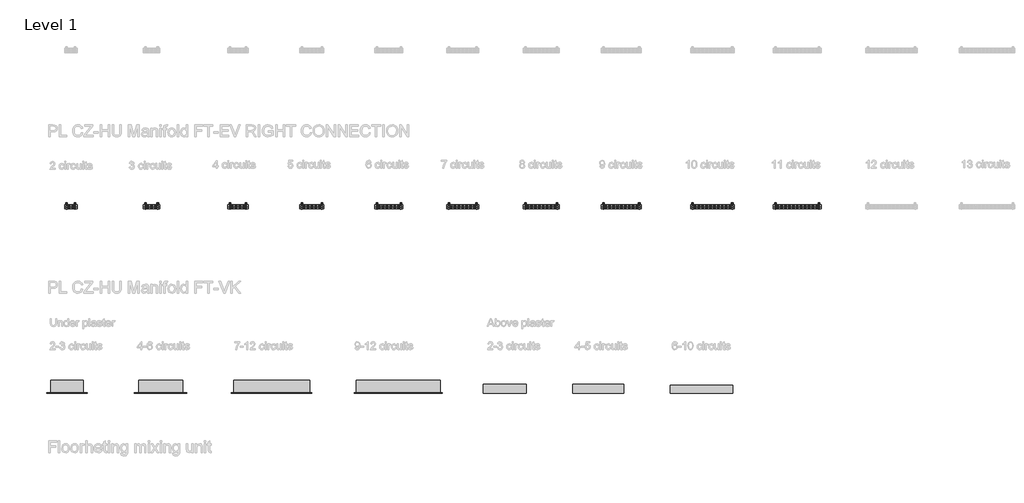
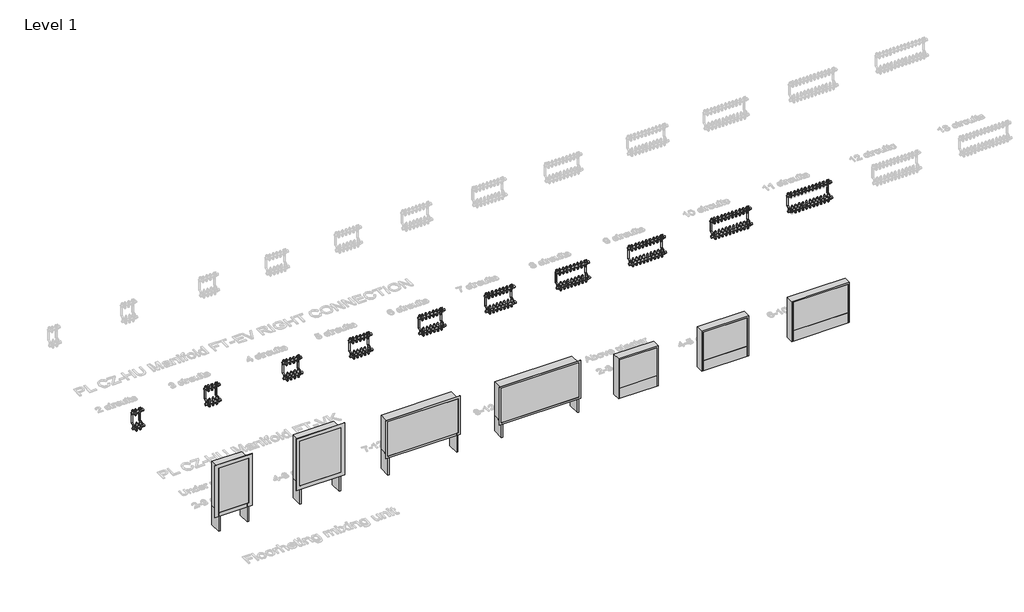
# One storey, part 1 of 13: 118 pipe fittings, 17 valves.
"""IFC4 building model written with IfcOpenShell, lengths in millimetres."""

from ifc_helpers import new_model, si_unit, origin, place, context, project, spatial, transform, mapped, element, save
from components import pipe_fitting_03c6499f, valve_ba84b301, valve_6797e1c4, valve_1d137561, valve_db89bd0c, valve_0ca0da9e, valve_ed07def3, valve_b03ecdcb, valve_6988da8c, valve_f03cca1b, valve_02f17e8c, valve_fda01fd1, valve_d8e88841, valve_cedec59f, valve_da24817b, valve_cd8652ac, valve_1cd17e95, valve_440f56c5, valve_c1a5959c, valve_5755080d, valve_f5936556, valve_d1a48dd4, valve_9c135178, valve_fde89ab8, valve_2528c4ae, valve_8079e6f7, valve_ce1a9fe1, valve_b9d05faa, valve_5ebee82e

model = new_model("IFC4")

# Units and contexts
model_context = context("Model", 3, world=origin())
ifc_project = project(units=[si_unit("LENGTHUNIT", "METRE", prefix="MILLI")], contexts=[model_context])

# Site, building, storey
site = spatial("IfcSite", under=ifc_project)
building = spatial("IfcBuilding", under=site)
storey = spatial("IfcBuildingStorey", under=building, Name="Level 1", Elevation=0.0)

# Pipe fittings
placement = place(None, origin())
pipe_fitting_shape = pipe_fitting_03c6499f(model_context)
element("IfcPipeFitting", 1, ObjectType="Euroconus screwing for multilayer pipes - Manifold FT : Euroconus screwing for multilayer pipes - Manifold FT", at=placement, inside=storey, context=model_context, shape_type="MappedRepresentation", body=[
    mapped(pipe_fitting_shape, transform((1338.7757306, -417.6772226, -37.0816103), x_axis=(0.0, 0.0, -1.0), y_axis=(0.0, 1.0000000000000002, 0.0), z_axis=(1.0000000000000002, 0.0, 0.0))),
])
element("IfcPipeFitting", 2, ObjectType="Euroconus screwing for multilayer pipes - Manifold FT : Euroconus screwing for multilayer pipes - Manifold FT", at=placement, inside=storey, context=model_context, shape_type="MappedRepresentation", body=[
    mapped(pipe_fitting_shape, transform((1288.7757306, -417.6772226, -37.0816103), x_axis=(0.0, 0.0, -1.0), y_axis=(0.0, 1.0000000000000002, 0.0), z_axis=(1.0000000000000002, 0.0, 0.0))),
])
element("IfcPipeFitting", 3, ObjectType="Euroconus screwing for multilayer pipes - Manifold FT : Euroconus screwing for multilayer pipes - Manifold FT", at=placement, inside=storey, context=model_context, shape_type="MappedRepresentation", body=[
    mapped(pipe_fitting_shape, transform((1338.7757306, -392.6772226, 172.88733), x_axis=(0.0, 0.0, -1.0), y_axis=(0.0, 1.0000000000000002, 0.0), z_axis=(1.0000000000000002, 0.0, 0.0))),
])
element("IfcPipeFitting", 4, ObjectType="Euroconus screwing for multilayer pipes - Manifold FT : Euroconus screwing for multilayer pipes - Manifold FT", at=placement, inside=storey, context=model_context, shape_type="MappedRepresentation", body=[
    mapped(pipe_fitting_shape, transform((1288.7757306, -392.6772226, 172.88733), x_axis=(0.0, 0.0, -1.0), y_axis=(0.0, 1.0000000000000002, 0.0), z_axis=(1.0000000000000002, 0.0, 0.0))),
])
element("IfcPipeFitting", 5, ObjectType="Euroconus screwing for multilayer pipes - Manifold FT : Euroconus screwing for multilayer pipes - Manifold FT", at=placement, inside=storey, context=model_context, shape_type="MappedRepresentation", body=[
    mapped(pipe_fitting_shape, transform((2347.2354504, -417.6772226, -37.0816103), x_axis=(0.0, 0.0, -1.0), y_axis=(0.0, 1.0000000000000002, 0.0), z_axis=(1.0000000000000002, 0.0, 0.0))),
])
element("IfcPipeFitting", 6, ObjectType="Euroconus screwing for multilayer pipes - Manifold FT : Euroconus screwing for multilayer pipes - Manifold FT", at=placement, inside=storey, context=model_context, shape_type="MappedRepresentation", body=[
    mapped(pipe_fitting_shape, transform((2397.2354504, -417.6772226, -37.0816103), x_axis=(0.0, 0.0, -1.0), y_axis=(0.0, 1.0000000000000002, 0.0), z_axis=(1.0000000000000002, 0.0, 0.0))),
])
element("IfcPipeFitting", 7, ObjectType="Euroconus screwing for multilayer pipes - Manifold FT : Euroconus screwing for multilayer pipes - Manifold FT", at=placement, inside=storey, context=model_context, shape_type="MappedRepresentation", body=[
    mapped(pipe_fitting_shape, transform((2297.2354504, -417.6772226, -37.0816103), x_axis=(0.0, 0.0, -1.0), y_axis=(0.0, 1.0000000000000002, 0.0), z_axis=(1.0000000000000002, 0.0, 0.0))),
])
element("IfcPipeFitting", 8, ObjectType="Euroconus screwing for multilayer pipes - Manifold FT : Euroconus screwing for multilayer pipes - Manifold FT", at=placement, inside=storey, context=model_context, shape_type="MappedRepresentation", body=[
    mapped(pipe_fitting_shape, transform((2347.2354504, -392.6772226, 172.88733), x_axis=(0.0, 0.0, -1.0), y_axis=(0.0, 1.0000000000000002, 0.0), z_axis=(1.0000000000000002, 0.0, 0.0))),
])
element("IfcPipeFitting", 9, ObjectType="Euroconus screwing for multilayer pipes - Manifold FT : Euroconus screwing for multilayer pipes - Manifold FT", at=placement, inside=storey, context=model_context, shape_type="MappedRepresentation", body=[
    mapped(pipe_fitting_shape, transform((2397.2354504, -392.6772226, 172.88733), x_axis=(0.0, 0.0, -1.0), y_axis=(0.0, 1.0000000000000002, 0.0), z_axis=(1.0000000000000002, 0.0, 0.0))),
])
element("IfcPipeFitting", 10, ObjectType="Euroconus screwing for multilayer pipes - Manifold FT : Euroconus screwing for multilayer pipes - Manifold FT", at=placement, inside=storey, context=model_context, shape_type="MappedRepresentation", body=[
    mapped(pipe_fitting_shape, transform((2297.2354504, -392.6772226, 172.88733), x_axis=(0.0, 0.0, -1.0), y_axis=(0.0, 1.0000000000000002, 0.0), z_axis=(1.0000000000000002, 0.0, 0.0))),
])
element("IfcPipeFitting", 11, ObjectType="Euroconus screwing for multilayer pipes - Manifold FT : Euroconus screwing for multilayer pipes - Manifold FT", at=placement, inside=storey, context=model_context, shape_type="MappedRepresentation", body=[
    mapped(pipe_fitting_shape, transform((3477.2354504, -417.6772226, -37.0816103), x_axis=(0.0, 0.0, -1.0), y_axis=(0.0, 1.0000000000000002, 0.0), z_axis=(1.0000000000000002, 0.0, 0.0))),
])
element("IfcPipeFitting", 12, ObjectType="Euroconus screwing for multilayer pipes - Manifold FT : Euroconus screwing for multilayer pipes - Manifold FT", at=placement, inside=storey, context=model_context, shape_type="MappedRepresentation", body=[
    mapped(pipe_fitting_shape, transform((3427.2354504, -417.6772226, -37.0816103), x_axis=(0.0, 0.0, -1.0), y_axis=(0.0, 1.0000000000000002, 0.0), z_axis=(1.0000000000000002, 0.0, 0.0))),
])
element("IfcPipeFitting", 13, ObjectType="Euroconus screwing for multilayer pipes - Manifold FT : Euroconus screwing for multilayer pipes - Manifold FT", at=placement, inside=storey, context=model_context, shape_type="MappedRepresentation", body=[
    mapped(pipe_fitting_shape, transform((3527.2354504, -417.6772226, -37.0816103), x_axis=(0.0, 0.0, -1.0), y_axis=(0.0, 1.0000000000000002, 0.0), z_axis=(1.0000000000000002, 0.0, 0.0))),
])
element("IfcPipeFitting", 14, ObjectType="Euroconus screwing for multilayer pipes - Manifold FT : Euroconus screwing for multilayer pipes - Manifold FT", at=placement, inside=storey, context=model_context, shape_type="MappedRepresentation", body=[
    mapped(pipe_fitting_shape, transform((3377.2354504, -417.6772226, -37.0816103), x_axis=(0.0, 0.0, -1.0), y_axis=(0.0, 1.0000000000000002, 0.0), z_axis=(1.0000000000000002, 0.0, 0.0))),
])
element("IfcPipeFitting", 15, ObjectType="Euroconus screwing for multilayer pipes - Manifold FT : Euroconus screwing for multilayer pipes - Manifold FT", at=placement, inside=storey, context=model_context, shape_type="MappedRepresentation", body=[
    mapped(pipe_fitting_shape, transform((3477.2354504, -392.6772226, 172.88733), x_axis=(0.0, 0.0, -1.0), y_axis=(0.0, 1.0000000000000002, 0.0), z_axis=(1.0000000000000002, 0.0, 0.0))),
])
element("IfcPipeFitting", 16, ObjectType="Euroconus screwing for multilayer pipes - Manifold FT : Euroconus screwing for multilayer pipes - Manifold FT", at=placement, inside=storey, context=model_context, shape_type="MappedRepresentation", body=[
    mapped(pipe_fitting_shape, transform((3427.2354504, -392.6772226, 172.88733), x_axis=(0.0, 0.0, -1.0), y_axis=(0.0, 1.0000000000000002, 0.0), z_axis=(1.0000000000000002, 0.0, 0.0))),
])
element("IfcPipeFitting", 17, ObjectType="Euroconus screwing for multilayer pipes - Manifold FT : Euroconus screwing for multilayer pipes - Manifold FT", at=placement, inside=storey, context=model_context, shape_type="MappedRepresentation", body=[
    mapped(pipe_fitting_shape, transform((3527.2354504, -392.6772226, 172.88733), x_axis=(0.0, 0.0, -1.0), y_axis=(0.0, 1.0000000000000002, 0.0), z_axis=(1.0000000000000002, 0.0, 0.0))),
])
element("IfcPipeFitting", 18, ObjectType="Euroconus screwing for multilayer pipes - Manifold FT : Euroconus screwing for multilayer pipes - Manifold FT", at=placement, inside=storey, context=model_context, shape_type="MappedRepresentation", body=[
    mapped(pipe_fitting_shape, transform((3377.2354504, -392.6772226, 172.88733), x_axis=(0.0, 0.0, -1.0), y_axis=(0.0, 1.0000000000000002, 0.0), z_axis=(1.0000000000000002, 0.0, 0.0))),
])
element("IfcPipeFitting", 19, ObjectType="Euroconus screwing for multilayer pipes - Manifold FT : Euroconus screwing for multilayer pipes - Manifold FT", at=placement, inside=storey, context=model_context, shape_type="MappedRepresentation", body=[
    mapped(pipe_fitting_shape, transform((4447.2354504, -417.6772226, -37.0816103), x_axis=(0.0, 0.0, -1.0), y_axis=(0.0, 1.0000000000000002, 0.0), z_axis=(1.0000000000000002, 0.0, 0.0))),
])
element("IfcPipeFitting", 20, ObjectType="Euroconus screwing for multilayer pipes - Manifold FT : Euroconus screwing for multilayer pipes - Manifold FT", at=placement, inside=storey, context=model_context, shape_type="MappedRepresentation", body=[
    mapped(pipe_fitting_shape, transform((4397.2354504, -417.6772226, -37.0816103), x_axis=(0.0, 0.0, -1.0), y_axis=(0.0, 1.0000000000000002, 0.0), z_axis=(1.0000000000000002, 0.0, 0.0))),
])
element("IfcPipeFitting", 21, ObjectType="Euroconus screwing for multilayer pipes - Manifold FT : Euroconus screwing for multilayer pipes - Manifold FT", at=placement, inside=storey, context=model_context, shape_type="MappedRepresentation", body=[
    mapped(pipe_fitting_shape, transform((4347.2354504, -417.6772226, -37.0816103), x_axis=(0.0, 0.0, -1.0), y_axis=(0.0, 1.0000000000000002, 0.0), z_axis=(1.0000000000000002, 0.0, 0.0))),
])
element("IfcPipeFitting", 22, ObjectType="Euroconus screwing for multilayer pipes - Manifold FT : Euroconus screwing for multilayer pipes - Manifold FT", at=placement, inside=storey, context=model_context, shape_type="MappedRepresentation", body=[
    mapped(pipe_fitting_shape, transform((4497.2354504, -417.6772226, -37.0816103), x_axis=(0.0, 0.0, -1.0), y_axis=(0.0, 1.0000000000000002, 0.0), z_axis=(1.0000000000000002, 0.0, 0.0))),
])
element("IfcPipeFitting", 23, ObjectType="Euroconus screwing for multilayer pipes - Manifold FT : Euroconus screwing for multilayer pipes - Manifold FT", at=placement, inside=storey, context=model_context, shape_type="MappedRepresentation", body=[
    mapped(pipe_fitting_shape, transform((4297.2354504, -417.6772226, -37.0816103), x_axis=(0.0, 0.0, -1.0), y_axis=(0.0, 1.0000000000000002, 0.0), z_axis=(1.0000000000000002, 0.0, 0.0))),
])
element("IfcPipeFitting", 24, ObjectType="Euroconus screwing for multilayer pipes - Manifold FT : Euroconus screwing for multilayer pipes - Manifold FT", at=placement, inside=storey, context=model_context, shape_type="MappedRepresentation", body=[
    mapped(pipe_fitting_shape, transform((4447.2354504, -392.6772226, 172.88733), x_axis=(0.0, 0.0, -1.0), y_axis=(0.0, 1.0000000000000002, 0.0), z_axis=(1.0000000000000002, 0.0, 0.0))),
])
element("IfcPipeFitting", 25, ObjectType="Euroconus screwing for multilayer pipes - Manifold FT : Euroconus screwing for multilayer pipes - Manifold FT", at=placement, inside=storey, context=model_context, shape_type="MappedRepresentation", body=[
    mapped(pipe_fitting_shape, transform((4397.2354504, -392.6772226, 172.88733), x_axis=(0.0, 0.0, -1.0), y_axis=(0.0, 1.0000000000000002, 0.0), z_axis=(1.0000000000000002, 0.0, 0.0))),
])
element("IfcPipeFitting", 26, ObjectType="Euroconus screwing for multilayer pipes - Manifold FT : Euroconus screwing for multilayer pipes - Manifold FT", at=placement, inside=storey, context=model_context, shape_type="MappedRepresentation", body=[
    mapped(pipe_fitting_shape, transform((4347.2354504, -392.6772226, 172.88733), x_axis=(0.0, 0.0, -1.0), y_axis=(0.0, 1.0000000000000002, 0.0), z_axis=(1.0000000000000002, 0.0, 0.0))),
])
element("IfcPipeFitting", 27, ObjectType="Euroconus screwing for multilayer pipes - Manifold FT : Euroconus screwing for multilayer pipes - Manifold FT", at=placement, inside=storey, context=model_context, shape_type="MappedRepresentation", body=[
    mapped(pipe_fitting_shape, transform((4497.2354504, -392.6772226, 172.88733), x_axis=(0.0, 0.0, -1.0), y_axis=(0.0, 1.0000000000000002, 0.0), z_axis=(1.0000000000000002, 0.0, 0.0))),
])
element("IfcPipeFitting", 28, ObjectType="Euroconus screwing for multilayer pipes - Manifold FT : Euroconus screwing for multilayer pipes - Manifold FT", at=placement, inside=storey, context=model_context, shape_type="MappedRepresentation", body=[
    mapped(pipe_fitting_shape, transform((4297.2354504, -392.6772226, 172.88733), x_axis=(0.0, 0.0, -1.0), y_axis=(0.0, 1.0000000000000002, 0.0), z_axis=(1.0000000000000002, 0.0, 0.0))),
])
element("IfcPipeFitting", 29, ObjectType="Euroconus screwing for multilayer pipes - Manifold FT : Euroconus screwing for multilayer pipes - Manifold FT", at=placement, inside=storey, context=model_context, shape_type="MappedRepresentation", body=[
    mapped(pipe_fitting_shape, transform((5457.2354504, -417.6772226, -37.0816103), x_axis=(0.0, 0.0, -1.0), y_axis=(0.0, 1.0000000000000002, 0.0), z_axis=(1.0000000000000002, 0.0, 0.0))),
])
element("IfcPipeFitting", 30, ObjectType="Euroconus screwing for multilayer pipes - Manifold FT : Euroconus screwing for multilayer pipes - Manifold FT", at=placement, inside=storey, context=model_context, shape_type="MappedRepresentation", body=[
    mapped(pipe_fitting_shape, transform((5407.2354504, -417.6772226, -37.0816103), x_axis=(0.0, 0.0, -1.0), y_axis=(0.0, 1.0000000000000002, 0.0), z_axis=(1.0000000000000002, 0.0, 0.0))),
])
element("IfcPipeFitting", 31, ObjectType="Euroconus screwing for multilayer pipes - Manifold FT : Euroconus screwing for multilayer pipes - Manifold FT", at=placement, inside=storey, context=model_context, shape_type="MappedRepresentation", body=[
    mapped(pipe_fitting_shape, transform((5357.2354504, -417.6772226, -37.0816103), x_axis=(0.0, 0.0, -1.0), y_axis=(0.0, 1.0000000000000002, 0.0), z_axis=(1.0000000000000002, 0.0, 0.0))),
])
element("IfcPipeFitting", 32, ObjectType="Euroconus screwing for multilayer pipes - Manifold FT : Euroconus screwing for multilayer pipes - Manifold FT", at=placement, inside=storey, context=model_context, shape_type="MappedRepresentation", body=[
    mapped(pipe_fitting_shape, transform((5307.2354504, -417.6772226, -37.0816103), x_axis=(0.0, 0.0, -1.0), y_axis=(0.0, 1.0000000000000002, 0.0), z_axis=(1.0000000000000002, 0.0, 0.0))),
])
element("IfcPipeFitting", 33, ObjectType="Euroconus screwing for multilayer pipes - Manifold FT : Euroconus screwing for multilayer pipes - Manifold FT", at=placement, inside=storey, context=model_context, shape_type="MappedRepresentation", body=[
    mapped(pipe_fitting_shape, transform((5507.2354504, -417.6772226, -37.0816103), x_axis=(0.0, 0.0, -1.0), y_axis=(0.0, 1.0000000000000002, 0.0), z_axis=(1.0000000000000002, 0.0, 0.0))),
])
element("IfcPipeFitting", 34, ObjectType="Euroconus screwing for multilayer pipes - Manifold FT : Euroconus screwing for multilayer pipes - Manifold FT", at=placement, inside=storey, context=model_context, shape_type="MappedRepresentation", body=[
    mapped(pipe_fitting_shape, transform((5257.2354504, -417.6772226, -37.0816103), x_axis=(0.0, 0.0, -1.0), y_axis=(0.0, 1.0000000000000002, 0.0), z_axis=(1.0000000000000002, 0.0, 0.0))),
])
element("IfcPipeFitting", 35, ObjectType="Euroconus screwing for multilayer pipes - Manifold FT : Euroconus screwing for multilayer pipes - Manifold FT", at=placement, inside=storey, context=model_context, shape_type="MappedRepresentation", body=[
    mapped(pipe_fitting_shape, transform((5457.2354504, -392.6772226, 172.88733), x_axis=(0.0, 0.0, -1.0), y_axis=(0.0, 1.0000000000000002, 0.0), z_axis=(1.0000000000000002, 0.0, 0.0))),
])
element("IfcPipeFitting", 36, ObjectType="Euroconus screwing for multilayer pipes - Manifold FT : Euroconus screwing for multilayer pipes - Manifold FT", at=placement, inside=storey, context=model_context, shape_type="MappedRepresentation", body=[
    mapped(pipe_fitting_shape, transform((5407.2354504, -392.6772226, 172.88733), x_axis=(0.0, 0.0, -1.0), y_axis=(0.0, 1.0000000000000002, 0.0), z_axis=(1.0000000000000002, 0.0, 0.0))),
])
element("IfcPipeFitting", 37, ObjectType="Euroconus screwing for multilayer pipes - Manifold FT : Euroconus screwing for multilayer pipes - Manifold FT", at=placement, inside=storey, context=model_context, shape_type="MappedRepresentation", body=[
    mapped(pipe_fitting_shape, transform((5357.2354504, -392.6772226, 172.88733), x_axis=(0.0, 0.0, -1.0), y_axis=(0.0, 1.0000000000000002, 0.0), z_axis=(1.0000000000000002, 0.0, 0.0))),
])
element("IfcPipeFitting", 38, ObjectType="Euroconus screwing for multilayer pipes - Manifold FT : Euroconus screwing for multilayer pipes - Manifold FT", at=placement, inside=storey, context=model_context, shape_type="MappedRepresentation", body=[
    mapped(pipe_fitting_shape, transform((5307.2354504, -392.6772226, 172.88733), x_axis=(0.0, 0.0, -1.0), y_axis=(0.0, 1.0000000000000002, 0.0), z_axis=(1.0000000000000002, 0.0, 0.0))),
])
element("IfcPipeFitting", 39, ObjectType="Euroconus screwing for multilayer pipes - Manifold FT : Euroconus screwing for multilayer pipes - Manifold FT", at=placement, inside=storey, context=model_context, shape_type="MappedRepresentation", body=[
    mapped(pipe_fitting_shape, transform((5507.2354504, -392.6772226, 172.88733), x_axis=(0.0, 0.0, -1.0), y_axis=(0.0, 1.0000000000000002, 0.0), z_axis=(1.0000000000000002, 0.0, 0.0))),
])
element("IfcPipeFitting", 40, ObjectType="Euroconus screwing for multilayer pipes - Manifold FT : Euroconus screwing for multilayer pipes - Manifold FT", at=placement, inside=storey, context=model_context, shape_type="MappedRepresentation", body=[
    mapped(pipe_fitting_shape, transform((5257.2354504, -392.6772226, 172.88733), x_axis=(0.0, 0.0, -1.0), y_axis=(0.0, 1.0000000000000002, 0.0), z_axis=(1.0000000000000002, 0.0, 0.0))),
])
element("IfcPipeFitting", 41, ObjectType="Euroconus screwing for multilayer pipes - Manifold FT : Euroconus screwing for multilayer pipes - Manifold FT", at=placement, inside=storey, context=model_context, shape_type="MappedRepresentation", body=[
    mapped(pipe_fitting_shape, transform((6427.2354504, -417.6772226, -37.0816103), x_axis=(0.0, 0.0, -1.0), y_axis=(0.0, 1.0000000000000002, 0.0), z_axis=(1.0000000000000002, 0.0, 0.0))),
])
element("IfcPipeFitting", 42, ObjectType="Euroconus screwing for multilayer pipes - Manifold FT : Euroconus screwing for multilayer pipes - Manifold FT", at=placement, inside=storey, context=model_context, shape_type="MappedRepresentation", body=[
    mapped(pipe_fitting_shape, transform((6377.2354504, -417.6772226, -37.0816103), x_axis=(0.0, 0.0, -1.0), y_axis=(0.0, 1.0000000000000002, 0.0), z_axis=(1.0000000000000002, 0.0, 0.0))),
])
element("IfcPipeFitting", 43, ObjectType="Euroconus screwing for multilayer pipes - Manifold FT : Euroconus screwing for multilayer pipes - Manifold FT", at=placement, inside=storey, context=model_context, shape_type="MappedRepresentation", body=[
    mapped(pipe_fitting_shape, transform((6327.2354504, -417.6772226, -37.0816103), x_axis=(0.0, 0.0, -1.0), y_axis=(0.0, 1.0000000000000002, 0.0), z_axis=(1.0000000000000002, 0.0, 0.0))),
])
element("IfcPipeFitting", 44, ObjectType="Euroconus screwing for multilayer pipes - Manifold FT : Euroconus screwing for multilayer pipes - Manifold FT", at=placement, inside=storey, context=model_context, shape_type="MappedRepresentation", body=[
    mapped(pipe_fitting_shape, transform((6277.2354504, -417.6772226, -37.0816103), x_axis=(0.0, 0.0, -1.0), y_axis=(0.0, 1.0000000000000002, 0.0), z_axis=(1.0000000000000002, 0.0, 0.0))),
])
element("IfcPipeFitting", 45, ObjectType="Euroconus screwing for multilayer pipes - Manifold FT : Euroconus screwing for multilayer pipes - Manifold FT", at=placement, inside=storey, context=model_context, shape_type="MappedRepresentation", body=[
    mapped(pipe_fitting_shape, transform((6227.2354504, -417.6772226, -37.0816103), x_axis=(0.0, 0.0, -1.0), y_axis=(0.0, 1.0000000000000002, 0.0), z_axis=(1.0000000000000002, 0.0, 0.0))),
])
element("IfcPipeFitting", 46, ObjectType="Euroconus screwing for multilayer pipes - Manifold FT : Euroconus screwing for multilayer pipes - Manifold FT", at=placement, inside=storey, context=model_context, shape_type="MappedRepresentation", body=[
    mapped(pipe_fitting_shape, transform((6477.2354504, -417.6772226, -37.0816103), x_axis=(0.0, 0.0, -1.0), y_axis=(0.0, 1.0000000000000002, 0.0), z_axis=(1.0000000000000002, 0.0, 0.0))),
])
element("IfcPipeFitting", 47, ObjectType="Euroconus screwing for multilayer pipes - Manifold FT : Euroconus screwing for multilayer pipes - Manifold FT", at=placement, inside=storey, context=model_context, shape_type="MappedRepresentation", body=[
    mapped(pipe_fitting_shape, transform((6177.2354504, -417.6772226, -37.0816103), x_axis=(0.0, 0.0, -1.0), y_axis=(0.0, 1.0000000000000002, 0.0), z_axis=(1.0000000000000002, 0.0, 0.0))),
])
element("IfcPipeFitting", 48, ObjectType="Euroconus screwing for multilayer pipes - Manifold FT : Euroconus screwing for multilayer pipes - Manifold FT", at=placement, inside=storey, context=model_context, shape_type="MappedRepresentation", body=[
    mapped(pipe_fitting_shape, transform((6427.2354504, -392.6772226, 172.88733), x_axis=(0.0, 0.0, -1.0), y_axis=(0.0, 1.0000000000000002, 0.0), z_axis=(1.0000000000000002, 0.0, 0.0))),
])
element("IfcPipeFitting", 49, ObjectType="Euroconus screwing for multilayer pipes - Manifold FT : Euroconus screwing for multilayer pipes - Manifold FT", at=placement, inside=storey, context=model_context, shape_type="MappedRepresentation", body=[
    mapped(pipe_fitting_shape, transform((6377.2354504, -392.6772226, 172.88733), x_axis=(0.0, 0.0, -1.0), y_axis=(0.0, 1.0000000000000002, 0.0), z_axis=(1.0000000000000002, 0.0, 0.0))),
])
element("IfcPipeFitting", 50, ObjectType="Euroconus screwing for multilayer pipes - Manifold FT : Euroconus screwing for multilayer pipes - Manifold FT", at=placement, inside=storey, context=model_context, shape_type="MappedRepresentation", body=[
    mapped(pipe_fitting_shape, transform((6327.2354504, -392.6772226, 172.88733), x_axis=(0.0, 0.0, -1.0), y_axis=(0.0, 1.0000000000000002, 0.0), z_axis=(1.0000000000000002, 0.0, 0.0))),
])
element("IfcPipeFitting", 51, ObjectType="Euroconus screwing for multilayer pipes - Manifold FT : Euroconus screwing for multilayer pipes - Manifold FT", at=placement, inside=storey, context=model_context, shape_type="MappedRepresentation", body=[
    mapped(pipe_fitting_shape, transform((6277.2354504, -392.6772226, 172.88733), x_axis=(0.0, 0.0, -1.0), y_axis=(0.0, 1.0000000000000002, 0.0), z_axis=(1.0000000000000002, 0.0, 0.0))),
])
element("IfcPipeFitting", 52, ObjectType="Euroconus screwing for multilayer pipes - Manifold FT : Euroconus screwing for multilayer pipes - Manifold FT", at=placement, inside=storey, context=model_context, shape_type="MappedRepresentation", body=[
    mapped(pipe_fitting_shape, transform((6227.2354504, -392.6772226, 172.88733), x_axis=(0.0, 0.0, -1.0), y_axis=(0.0, 1.0000000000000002, 0.0), z_axis=(1.0000000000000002, 0.0, 0.0))),
])
element("IfcPipeFitting", 53, ObjectType="Euroconus screwing for multilayer pipes - Manifold FT : Euroconus screwing for multilayer pipes - Manifold FT", at=placement, inside=storey, context=model_context, shape_type="MappedRepresentation", body=[
    mapped(pipe_fitting_shape, transform((6477.2354504, -392.6772226, 172.88733), x_axis=(0.0, 0.0, -1.0), y_axis=(0.0, 1.0000000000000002, 0.0), z_axis=(1.0000000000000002, 0.0, 0.0))),
])
element("IfcPipeFitting", 54, ObjectType="Euroconus screwing for multilayer pipes - Manifold FT : Euroconus screwing for multilayer pipes - Manifold FT", at=placement, inside=storey, context=model_context, shape_type="MappedRepresentation", body=[
    mapped(pipe_fitting_shape, transform((6177.2354504, -392.6772226, 172.88733), x_axis=(0.0, 0.0, -1.0), y_axis=(0.0, 1.0000000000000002, 0.0), z_axis=(1.0000000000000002, 0.0, 0.0))),
])
element("IfcPipeFitting", 55, ObjectType="Euroconus screwing for multilayer pipes - Manifold FT : Euroconus screwing for multilayer pipes - Manifold FT", at=placement, inside=storey, context=model_context, shape_type="MappedRepresentation", body=[
    mapped(pipe_fitting_shape, transform((7457.2354504, -417.6772226, -37.0816103), x_axis=(0.0, 0.0, -1.0), y_axis=(0.0, 1.0000000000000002, 0.0), z_axis=(1.0000000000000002, 0.0, 0.0))),
])
element("IfcPipeFitting", 56, ObjectType="Euroconus screwing for multilayer pipes - Manifold FT : Euroconus screwing for multilayer pipes - Manifold FT", at=placement, inside=storey, context=model_context, shape_type="MappedRepresentation", body=[
    mapped(pipe_fitting_shape, transform((7407.2354504, -417.6772226, -37.0816103), x_axis=(0.0, 0.0, -1.0), y_axis=(0.0, 1.0000000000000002, 0.0), z_axis=(1.0000000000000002, 0.0, 0.0))),
])
element("IfcPipeFitting", 57, ObjectType="Euroconus screwing for multilayer pipes - Manifold FT : Euroconus screwing for multilayer pipes - Manifold FT", at=placement, inside=storey, context=model_context, shape_type="MappedRepresentation", body=[
    mapped(pipe_fitting_shape, transform((7357.2354504, -417.6772226, -37.0816103), x_axis=(0.0, 0.0, -1.0), y_axis=(0.0, 1.0000000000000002, 0.0), z_axis=(1.0000000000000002, 0.0, 0.0))),
])
element("IfcPipeFitting", 58, ObjectType="Euroconus screwing for multilayer pipes - Manifold FT : Euroconus screwing for multilayer pipes - Manifold FT", at=placement, inside=storey, context=model_context, shape_type="MappedRepresentation", body=[
    mapped(pipe_fitting_shape, transform((7307.2354504, -417.6772226, -37.0816103), x_axis=(0.0, 0.0, -1.0), y_axis=(0.0, 1.0000000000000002, 0.0), z_axis=(1.0000000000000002, 0.0, 0.0))),
])
element("IfcPipeFitting", 59, ObjectType="Euroconus screwing for multilayer pipes - Manifold FT : Euroconus screwing for multilayer pipes - Manifold FT", at=placement, inside=storey, context=model_context, shape_type="MappedRepresentation", body=[
    mapped(pipe_fitting_shape, transform((7257.2354504, -417.6772226, -37.0816103), x_axis=(0.0, 0.0, -1.0), y_axis=(0.0, 1.0000000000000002, 0.0), z_axis=(1.0000000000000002, 0.0, 0.0))),
])
element("IfcPipeFitting", 60, ObjectType="Euroconus screwing for multilayer pipes - Manifold FT : Euroconus screwing for multilayer pipes - Manifold FT", at=placement, inside=storey, context=model_context, shape_type="MappedRepresentation", body=[
    mapped(pipe_fitting_shape, transform((7207.2354504, -417.6772226, -37.0816103), x_axis=(0.0, 0.0, -1.0), y_axis=(0.0, 1.0000000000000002, 0.0), z_axis=(1.0000000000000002, 0.0, 0.0))),
])
element("IfcPipeFitting", 61, ObjectType="Euroconus screwing for multilayer pipes - Manifold FT : Euroconus screwing for multilayer pipes - Manifold FT", at=placement, inside=storey, context=model_context, shape_type="MappedRepresentation", body=[
    mapped(pipe_fitting_shape, transform((7507.2354504, -417.6772226, -37.0816103), x_axis=(0.0, 0.0, -1.0), y_axis=(0.0, 1.0000000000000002, 0.0), z_axis=(1.0000000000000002, 0.0, 0.0))),
])
element("IfcPipeFitting", 62, ObjectType="Euroconus screwing for multilayer pipes - Manifold FT : Euroconus screwing for multilayer pipes - Manifold FT", at=placement, inside=storey, context=model_context, shape_type="MappedRepresentation", body=[
    mapped(pipe_fitting_shape, transform((7157.2354504, -417.6772226, -37.0816103), x_axis=(0.0, 0.0, -1.0), y_axis=(0.0, 1.0000000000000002, 0.0), z_axis=(1.0000000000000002, 0.0, 0.0))),
])
element("IfcPipeFitting", 63, ObjectType="Euroconus screwing for multilayer pipes - Manifold FT : Euroconus screwing for multilayer pipes - Manifold FT", at=placement, inside=storey, context=model_context, shape_type="MappedRepresentation", body=[
    mapped(pipe_fitting_shape, transform((7457.2354504, -392.6772226, 172.88733), x_axis=(0.0, 0.0, -1.0), y_axis=(0.0, 1.0000000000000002, 0.0), z_axis=(1.0000000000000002, 0.0, 0.0))),
])
element("IfcPipeFitting", 64, ObjectType="Euroconus screwing for multilayer pipes - Manifold FT : Euroconus screwing for multilayer pipes - Manifold FT", at=placement, inside=storey, context=model_context, shape_type="MappedRepresentation", body=[
    mapped(pipe_fitting_shape, transform((7407.2354504, -392.6772226, 172.88733), x_axis=(0.0, 0.0, -1.0), y_axis=(0.0, 1.0000000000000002, 0.0), z_axis=(1.0000000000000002, 0.0, 0.0))),
])
element("IfcPipeFitting", 65, ObjectType="Euroconus screwing for multilayer pipes - Manifold FT : Euroconus screwing for multilayer pipes - Manifold FT", at=placement, inside=storey, context=model_context, shape_type="MappedRepresentation", body=[
    mapped(pipe_fitting_shape, transform((7357.2354504, -392.6772226, 172.88733), x_axis=(0.0, 0.0, -1.0), y_axis=(0.0, 1.0000000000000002, 0.0), z_axis=(1.0000000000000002, 0.0, 0.0))),
])
element("IfcPipeFitting", 66, ObjectType="Euroconus screwing for multilayer pipes - Manifold FT : Euroconus screwing for multilayer pipes - Manifold FT", at=placement, inside=storey, context=model_context, shape_type="MappedRepresentation", body=[
    mapped(pipe_fitting_shape, transform((7307.2354504, -392.6772226, 172.88733), x_axis=(0.0, 0.0, -1.0), y_axis=(0.0, 1.0000000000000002, 0.0), z_axis=(1.0000000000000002, 0.0, 0.0))),
])
element("IfcPipeFitting", 67, ObjectType="Euroconus screwing for multilayer pipes - Manifold FT : Euroconus screwing for multilayer pipes - Manifold FT", at=placement, inside=storey, context=model_context, shape_type="MappedRepresentation", body=[
    mapped(pipe_fitting_shape, transform((7257.2354504, -392.6772226, 172.88733), x_axis=(0.0, 0.0, -1.0), y_axis=(0.0, 1.0000000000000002, 0.0), z_axis=(1.0000000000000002, 0.0, 0.0))),
])
element("IfcPipeFitting", 68, ObjectType="Euroconus screwing for multilayer pipes - Manifold FT : Euroconus screwing for multilayer pipes - Manifold FT", at=placement, inside=storey, context=model_context, shape_type="MappedRepresentation", body=[
    mapped(pipe_fitting_shape, transform((7207.2354504, -392.6772226, 172.88733), x_axis=(0.0, 0.0, -1.0), y_axis=(0.0, 1.0000000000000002, 0.0), z_axis=(1.0000000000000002, 0.0, 0.0))),
])
element("IfcPipeFitting", 69, ObjectType="Euroconus screwing for multilayer pipes - Manifold FT : Euroconus screwing for multilayer pipes - Manifold FT", at=placement, inside=storey, context=model_context, shape_type="MappedRepresentation", body=[
    mapped(pipe_fitting_shape, transform((7507.2354504, -392.6772226, 172.88733), x_axis=(0.0, 0.0, -1.0), y_axis=(0.0, 1.0000000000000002, 0.0), z_axis=(1.0000000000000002, 0.0, 0.0))),
])
element("IfcPipeFitting", 70, ObjectType="Euroconus screwing for multilayer pipes - Manifold FT : Euroconus screwing for multilayer pipes - Manifold FT", at=placement, inside=storey, context=model_context, shape_type="MappedRepresentation", body=[
    mapped(pipe_fitting_shape, transform((7157.2354504, -392.6772226, 172.88733), x_axis=(0.0, 0.0, -1.0), y_axis=(0.0, 1.0000000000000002, 0.0), z_axis=(1.0000000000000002, 0.0, 0.0))),
])
element("IfcPipeFitting", 71, ObjectType="Euroconus screwing for multilayer pipes - Manifold FT : Euroconus screwing for multilayer pipes - Manifold FT", at=placement, inside=storey, context=model_context, shape_type="MappedRepresentation", body=[
    mapped(pipe_fitting_shape, transform((8507.2354504, -417.6772226, -37.0816103), x_axis=(0.0, 0.0, -1.0), y_axis=(0.0, 1.0000000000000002, 0.0), z_axis=(1.0000000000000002, 0.0, 0.0))),
])
element("IfcPipeFitting", 72, ObjectType="Euroconus screwing for multilayer pipes - Manifold FT : Euroconus screwing for multilayer pipes - Manifold FT", at=placement, inside=storey, context=model_context, shape_type="MappedRepresentation", body=[
    mapped(pipe_fitting_shape, transform((8457.2354504, -417.6772226, -37.0816103), x_axis=(0.0, 0.0, -1.0), y_axis=(0.0, 1.0000000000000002, 0.0), z_axis=(1.0000000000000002, 0.0, 0.0))),
])
element("IfcPipeFitting", 73, ObjectType="Euroconus screwing for multilayer pipes - Manifold FT : Euroconus screwing for multilayer pipes - Manifold FT", at=placement, inside=storey, context=model_context, shape_type="MappedRepresentation", body=[
    mapped(pipe_fitting_shape, transform((8407.2354504, -417.6772226, -37.0816103), x_axis=(0.0, 0.0, -1.0), y_axis=(0.0, 1.0000000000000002, 0.0), z_axis=(1.0000000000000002, 0.0, 0.0))),
])
element("IfcPipeFitting", 74, ObjectType="Euroconus screwing for multilayer pipes - Manifold FT : Euroconus screwing for multilayer pipes - Manifold FT", at=placement, inside=storey, context=model_context, shape_type="MappedRepresentation", body=[
    mapped(pipe_fitting_shape, transform((8357.2354504, -417.6772226, -37.0816103), x_axis=(0.0, 0.0, -1.0), y_axis=(0.0, 1.0000000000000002, 0.0), z_axis=(1.0000000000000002, 0.0, 0.0))),
])
element("IfcPipeFitting", 75, ObjectType="Euroconus screwing for multilayer pipes - Manifold FT : Euroconus screwing for multilayer pipes - Manifold FT", at=placement, inside=storey, context=model_context, shape_type="MappedRepresentation", body=[
    mapped(pipe_fitting_shape, transform((8307.2354504, -417.6772226, -37.0816103), x_axis=(0.0, 0.0, -1.0), y_axis=(0.0, 1.0000000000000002, 0.0), z_axis=(1.0000000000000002, 0.0, 0.0))),
])
element("IfcPipeFitting", 76, ObjectType="Euroconus screwing for multilayer pipes - Manifold FT : Euroconus screwing for multilayer pipes - Manifold FT", at=placement, inside=storey, context=model_context, shape_type="MappedRepresentation", body=[
    mapped(pipe_fitting_shape, transform((8257.2354504, -417.6772226, -37.0816103), x_axis=(0.0, 0.0, -1.0), y_axis=(0.0, 1.0000000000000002, 0.0), z_axis=(1.0000000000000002, 0.0, 0.0))),
])
element("IfcPipeFitting", 77, ObjectType="Euroconus screwing for multilayer pipes - Manifold FT : Euroconus screwing for multilayer pipes - Manifold FT", at=placement, inside=storey, context=model_context, shape_type="MappedRepresentation", body=[
    mapped(pipe_fitting_shape, transform((8207.2354504, -417.6772226, -37.0816103), x_axis=(0.0, 0.0, -1.0), y_axis=(0.0, 1.0000000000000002, 0.0), z_axis=(1.0000000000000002, 0.0, 0.0))),
])
element("IfcPipeFitting", 78, ObjectType="Euroconus screwing for multilayer pipes - Manifold FT : Euroconus screwing for multilayer pipes - Manifold FT", at=placement, inside=storey, context=model_context, shape_type="MappedRepresentation", body=[
    mapped(pipe_fitting_shape, transform((8557.2354504, -417.6772226, -37.0816103), x_axis=(0.0, 0.0, -1.0), y_axis=(0.0, 1.0000000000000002, 0.0), z_axis=(1.0000000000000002, 0.0, 0.0))),
])
element("IfcPipeFitting", 79, ObjectType="Euroconus screwing for multilayer pipes - Manifold FT : Euroconus screwing for multilayer pipes - Manifold FT", at=placement, inside=storey, context=model_context, shape_type="MappedRepresentation", body=[
    mapped(pipe_fitting_shape, transform((8157.2354504, -417.6772226, -37.0816103), x_axis=(0.0, 0.0, -1.0), y_axis=(0.0, 1.0000000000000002, 0.0), z_axis=(1.0000000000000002, 0.0, 0.0))),
])
element("IfcPipeFitting", 80, ObjectType="Euroconus screwing for multilayer pipes - Manifold FT : Euroconus screwing for multilayer pipes - Manifold FT", at=placement, inside=storey, context=model_context, shape_type="MappedRepresentation", body=[
    mapped(pipe_fitting_shape, transform((8507.2354504, -392.6772226, 172.88733), x_axis=(0.0, 0.0, -1.0), y_axis=(0.0, 1.0000000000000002, 0.0), z_axis=(1.0000000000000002, 0.0, 0.0))),
])
element("IfcPipeFitting", 81, ObjectType="Euroconus screwing for multilayer pipes - Manifold FT : Euroconus screwing for multilayer pipes - Manifold FT", at=placement, inside=storey, context=model_context, shape_type="MappedRepresentation", body=[
    mapped(pipe_fitting_shape, transform((8457.2354504, -392.6772226, 172.88733), x_axis=(0.0, 0.0, -1.0), y_axis=(0.0, 1.0000000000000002, 0.0), z_axis=(1.0000000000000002, 0.0, 0.0))),
])
element("IfcPipeFitting", 82, ObjectType="Euroconus screwing for multilayer pipes - Manifold FT : Euroconus screwing for multilayer pipes - Manifold FT", at=placement, inside=storey, context=model_context, shape_type="MappedRepresentation", body=[
    mapped(pipe_fitting_shape, transform((8407.2354504, -392.6772226, 172.88733), x_axis=(0.0, 0.0, -1.0), y_axis=(0.0, 1.0000000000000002, 0.0), z_axis=(1.0000000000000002, 0.0, 0.0))),
])
element("IfcPipeFitting", 83, ObjectType="Euroconus screwing for multilayer pipes - Manifold FT : Euroconus screwing for multilayer pipes - Manifold FT", at=placement, inside=storey, context=model_context, shape_type="MappedRepresentation", body=[
    mapped(pipe_fitting_shape, transform((8357.2354504, -392.6772226, 172.88733), x_axis=(0.0, 0.0, -1.0), y_axis=(0.0, 1.0000000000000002, 0.0), z_axis=(1.0000000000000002, 0.0, 0.0))),
])
element("IfcPipeFitting", 84, ObjectType="Euroconus screwing for multilayer pipes - Manifold FT : Euroconus screwing for multilayer pipes - Manifold FT", at=placement, inside=storey, context=model_context, shape_type="MappedRepresentation", body=[
    mapped(pipe_fitting_shape, transform((8307.2354504, -392.6772226, 172.88733), x_axis=(0.0, 0.0, -1.0), y_axis=(0.0, 1.0000000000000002, 0.0), z_axis=(1.0000000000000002, 0.0, 0.0))),
])
element("IfcPipeFitting", 85, ObjectType="Euroconus screwing for multilayer pipes - Manifold FT : Euroconus screwing for multilayer pipes - Manifold FT", at=placement, inside=storey, context=model_context, shape_type="MappedRepresentation", body=[
    mapped(pipe_fitting_shape, transform((8257.2354504, -392.6772226, 172.88733), x_axis=(0.0, 0.0, -1.0), y_axis=(0.0, 1.0000000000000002, 0.0), z_axis=(1.0000000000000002, 0.0, 0.0))),
])
element("IfcPipeFitting", 86, ObjectType="Euroconus screwing for multilayer pipes - Manifold FT : Euroconus screwing for multilayer pipes - Manifold FT", at=placement, inside=storey, context=model_context, shape_type="MappedRepresentation", body=[
    mapped(pipe_fitting_shape, transform((8207.2354504, -392.6772226, 172.88733), x_axis=(0.0, 0.0, -1.0), y_axis=(0.0, 1.0000000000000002, 0.0), z_axis=(1.0000000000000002, 0.0, 0.0))),
])
element("IfcPipeFitting", 87, ObjectType="Euroconus screwing for multilayer pipes - Manifold FT : Euroconus screwing for multilayer pipes - Manifold FT", at=placement, inside=storey, context=model_context, shape_type="MappedRepresentation", body=[
    mapped(pipe_fitting_shape, transform((8557.2354504, -392.6772226, 172.88733), x_axis=(0.0, 0.0, -1.0), y_axis=(0.0, 1.0000000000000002, 0.0), z_axis=(1.0000000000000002, 0.0, 0.0))),
])
element("IfcPipeFitting", 88, ObjectType="Euroconus screwing for multilayer pipes - Manifold FT : Euroconus screwing for multilayer pipes - Manifold FT", at=placement, inside=storey, context=model_context, shape_type="MappedRepresentation", body=[
    mapped(pipe_fitting_shape, transform((8157.2354504, -392.6772226, 172.88733), x_axis=(0.0, 0.0, -1.0), y_axis=(0.0, 1.0000000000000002, 0.0), z_axis=(1.0000000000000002, 0.0, 0.0))),
])
element("IfcPipeFitting", 89, ObjectType="Euroconus screwing for multilayer pipes - Manifold FT : Euroconus screwing for multilayer pipes - Manifold FT", at=placement, inside=storey, context=model_context, shape_type="MappedRepresentation", body=[
    mapped(pipe_fitting_shape, transform((9697.2354504, -417.6772226, -37.0816103), x_axis=(0.0, 0.0, -1.0), y_axis=(0.0, 1.0000000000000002, 0.0), z_axis=(1.0000000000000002, 0.0, 0.0))),
])
element("IfcPipeFitting", 90, ObjectType="Euroconus screwing for multilayer pipes - Manifold FT : Euroconus screwing for multilayer pipes - Manifold FT", at=placement, inside=storey, context=model_context, shape_type="MappedRepresentation", body=[
    mapped(pipe_fitting_shape, transform((9647.2354504, -417.6772226, -37.0816103), x_axis=(0.0, 0.0, -1.0), y_axis=(0.0, 1.0000000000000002, 0.0), z_axis=(1.0000000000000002, 0.0, 0.0))),
])
element("IfcPipeFitting", 91, ObjectType="Euroconus screwing for multilayer pipes - Manifold FT : Euroconus screwing for multilayer pipes - Manifold FT", at=placement, inside=storey, context=model_context, shape_type="MappedRepresentation", body=[
    mapped(pipe_fitting_shape, transform((9597.2354504, -417.6772226, -37.0816103), x_axis=(0.0, 0.0, -1.0), y_axis=(0.0, 1.0000000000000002, 0.0), z_axis=(1.0000000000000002, 0.0, 0.0))),
])
element("IfcPipeFitting", 92, ObjectType="Euroconus screwing for multilayer pipes - Manifold FT : Euroconus screwing for multilayer pipes - Manifold FT", at=placement, inside=storey, context=model_context, shape_type="MappedRepresentation", body=[
    mapped(pipe_fitting_shape, transform((9547.2354504, -417.6772226, -37.0816103), x_axis=(0.0, 0.0, -1.0), y_axis=(0.0, 1.0000000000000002, 0.0), z_axis=(1.0000000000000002, 0.0, 0.0))),
])
element("IfcPipeFitting", 93, ObjectType="Euroconus screwing for multilayer pipes - Manifold FT : Euroconus screwing for multilayer pipes - Manifold FT", at=placement, inside=storey, context=model_context, shape_type="MappedRepresentation", body=[
    mapped(pipe_fitting_shape, transform((9497.2354504, -417.6772226, -37.0816103), x_axis=(0.0, 0.0, -1.0), y_axis=(0.0, 1.0000000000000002, 0.0), z_axis=(1.0000000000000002, 0.0, 0.0))),
])
element("IfcPipeFitting", 94, ObjectType="Euroconus screwing for multilayer pipes - Manifold FT : Euroconus screwing for multilayer pipes - Manifold FT", at=placement, inside=storey, context=model_context, shape_type="MappedRepresentation", body=[
    mapped(pipe_fitting_shape, transform((9447.2354504, -417.6772226, -37.0816103), x_axis=(0.0, 0.0, -1.0), y_axis=(0.0, 1.0000000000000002, 0.0), z_axis=(1.0000000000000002, 0.0, 0.0))),
])
element("IfcPipeFitting", 95, ObjectType="Euroconus screwing for multilayer pipes - Manifold FT : Euroconus screwing for multilayer pipes - Manifold FT", at=placement, inside=storey, context=model_context, shape_type="MappedRepresentation", body=[
    mapped(pipe_fitting_shape, transform((9397.2354504, -417.6772226, -37.0816103), x_axis=(0.0, 0.0, -1.0), y_axis=(0.0, 1.0000000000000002, 0.0), z_axis=(1.0000000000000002, 0.0, 0.0))),
])
element("IfcPipeFitting", 96, ObjectType="Euroconus screwing for multilayer pipes - Manifold FT : Euroconus screwing for multilayer pipes - Manifold FT", at=placement, inside=storey, context=model_context, shape_type="MappedRepresentation", body=[
    mapped(pipe_fitting_shape, transform((9347.2354504, -417.6772226, -37.0816103), x_axis=(0.0, 0.0, -1.0), y_axis=(0.0, 1.0000000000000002, 0.0), z_axis=(1.0000000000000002, 0.0, 0.0))),
])
element("IfcPipeFitting", 97, ObjectType="Euroconus screwing for multilayer pipes - Manifold FT : Euroconus screwing for multilayer pipes - Manifold FT", at=placement, inside=storey, context=model_context, shape_type="MappedRepresentation", body=[
    mapped(pipe_fitting_shape, transform((9747.2354504, -417.6772226, -37.0816103), x_axis=(0.0, 0.0, -1.0), y_axis=(0.0, 1.0000000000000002, 0.0), z_axis=(1.0000000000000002, 0.0, 0.0))),
])
element("IfcPipeFitting", 98, ObjectType="Euroconus screwing for multilayer pipes - Manifold FT : Euroconus screwing for multilayer pipes - Manifold FT", at=placement, inside=storey, context=model_context, shape_type="MappedRepresentation", body=[
    mapped(pipe_fitting_shape, transform((9297.2354504, -417.6772226, -37.0816103), x_axis=(0.0, 0.0, -1.0), y_axis=(0.0, 1.0000000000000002, 0.0), z_axis=(1.0000000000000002, 0.0, 0.0))),
])
element("IfcPipeFitting", 99, ObjectType="Euroconus screwing for multilayer pipes - Manifold FT : Euroconus screwing for multilayer pipes - Manifold FT", at=placement, inside=storey, context=model_context, shape_type="MappedRepresentation", body=[
    mapped(pipe_fitting_shape, transform((9697.2354504, -392.6772226, 172.88733), x_axis=(0.0, 0.0, -1.0), y_axis=(0.0, 1.0000000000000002, 0.0), z_axis=(1.0000000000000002, 0.0, 0.0))),
])
element("IfcPipeFitting", 100, ObjectType="Euroconus screwing for multilayer pipes - Manifold FT : Euroconus screwing for multilayer pipes - Manifold FT", at=placement, inside=storey, context=model_context, shape_type="MappedRepresentation", body=[
    mapped(pipe_fitting_shape, transform((9647.2354504, -392.6772226, 172.88733), x_axis=(0.0, 0.0, -1.0), y_axis=(0.0, 1.0000000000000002, 0.0), z_axis=(1.0000000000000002, 0.0, 0.0))),
])
element("IfcPipeFitting", 101, ObjectType="Euroconus screwing for multilayer pipes - Manifold FT : Euroconus screwing for multilayer pipes - Manifold FT", at=placement, inside=storey, context=model_context, shape_type="MappedRepresentation", body=[
    mapped(pipe_fitting_shape, transform((9597.2354504, -392.6772226, 172.88733), x_axis=(0.0, 0.0, -1.0), y_axis=(0.0, 1.0000000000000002, 0.0), z_axis=(1.0000000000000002, 0.0, 0.0))),
])
element("IfcPipeFitting", 102, ObjectType="Euroconus screwing for multilayer pipes - Manifold FT : Euroconus screwing for multilayer pipes - Manifold FT", at=placement, inside=storey, context=model_context, shape_type="MappedRepresentation", body=[
    mapped(pipe_fitting_shape, transform((9547.2354504, -392.6772226, 172.88733), x_axis=(0.0, 0.0, -1.0), y_axis=(0.0, 1.0000000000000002, 0.0), z_axis=(1.0000000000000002, 0.0, 0.0))),
])
element("IfcPipeFitting", 103, ObjectType="Euroconus screwing for multilayer pipes - Manifold FT : Euroconus screwing for multilayer pipes - Manifold FT", at=placement, inside=storey, context=model_context, shape_type="MappedRepresentation", body=[
    mapped(pipe_fitting_shape, transform((9497.2354504, -392.6772226, 172.88733), x_axis=(0.0, 0.0, -1.0), y_axis=(0.0, 1.0000000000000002, 0.0), z_axis=(1.0000000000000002, 0.0, 0.0))),
])
element("IfcPipeFitting", 104, ObjectType="Euroconus screwing for multilayer pipes - Manifold FT : Euroconus screwing for multilayer pipes - Manifold FT", at=placement, inside=storey, context=model_context, shape_type="MappedRepresentation", body=[
    mapped(pipe_fitting_shape, transform((9447.2354504, -392.6772226, 172.88733), x_axis=(0.0, 0.0, -1.0), y_axis=(0.0, 1.0000000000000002, 0.0), z_axis=(1.0000000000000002, 0.0, 0.0))),
])
element("IfcPipeFitting", 105, ObjectType="Euroconus screwing for multilayer pipes - Manifold FT : Euroconus screwing for multilayer pipes - Manifold FT", at=placement, inside=storey, context=model_context, shape_type="MappedRepresentation", body=[
    mapped(pipe_fitting_shape, transform((9397.2354504, -392.6772226, 172.88733), x_axis=(0.0, 0.0, -1.0), y_axis=(0.0, 1.0000000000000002, 0.0), z_axis=(1.0000000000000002, 0.0, 0.0))),
])
element("IfcPipeFitting", 106, ObjectType="Euroconus screwing for multilayer pipes - Manifold FT : Euroconus screwing for multilayer pipes - Manifold FT", at=placement, inside=storey, context=model_context, shape_type="MappedRepresentation", body=[
    mapped(pipe_fitting_shape, transform((9347.2354504, -392.6772226, 172.88733), x_axis=(0.0, 0.0, -1.0), y_axis=(0.0, 1.0000000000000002, 0.0), z_axis=(1.0000000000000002, 0.0, 0.0))),
])
element("IfcPipeFitting", 107, ObjectType="Euroconus screwing for multilayer pipes - Manifold FT : Euroconus screwing for multilayer pipes - Manifold FT", at=placement, inside=storey, context=model_context, shape_type="MappedRepresentation", body=[
    mapped(pipe_fitting_shape, transform((9747.2354504, -392.6772226, 172.88733), x_axis=(0.0, 0.0, -1.0), y_axis=(0.0, 1.0000000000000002, 0.0), z_axis=(1.0000000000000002, 0.0, 0.0))),
])
element("IfcPipeFitting", 108, ObjectType="Euroconus screwing for multilayer pipes - Manifold FT : Euroconus screwing for multilayer pipes - Manifold FT", at=placement, inside=storey, context=model_context, shape_type="MappedRepresentation", body=[
    mapped(pipe_fitting_shape, transform((9297.2354504, -392.6772226, 172.88733), x_axis=(0.0, 0.0, -1.0), y_axis=(0.0, 1.0000000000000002, 0.0), z_axis=(1.0000000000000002, 0.0, 0.0))),
])
element("IfcPipeFitting", 109, ObjectType="Euroconus screwing for multilayer pipes - Manifold FT : Euroconus screwing for multilayer pipes - Manifold FT", at=placement, inside=storey, context=model_context, shape_type="MappedRepresentation", body=[
    mapped(pipe_fitting_shape, transform((10807.2354504, -417.6772226, -37.0816103), x_axis=(0.0, 0.0, -1.0), y_axis=(0.0, 1.0000000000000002, 0.0), z_axis=(1.0000000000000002, 0.0, 0.0))),
])
element("IfcPipeFitting", 110, ObjectType="Euroconus screwing for multilayer pipes - Manifold FT : Euroconus screwing for multilayer pipes - Manifold FT", at=placement, inside=storey, context=model_context, shape_type="MappedRepresentation", body=[
    mapped(pipe_fitting_shape, transform((10757.2354504, -417.6772226, -37.0816103), x_axis=(0.0, 0.0, -1.0), y_axis=(0.0, 1.0000000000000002, 0.0), z_axis=(1.0000000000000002, 0.0, 0.0))),
])
element("IfcPipeFitting", 111, ObjectType="Euroconus screwing for multilayer pipes - Manifold FT : Euroconus screwing for multilayer pipes - Manifold FT", at=placement, inside=storey, context=model_context, shape_type="MappedRepresentation", body=[
    mapped(pipe_fitting_shape, transform((10707.2354504, -417.6772226, -37.0816103), x_axis=(0.0, 0.0, -1.0), y_axis=(0.0, 1.0000000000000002, 0.0), z_axis=(1.0000000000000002, 0.0, 0.0))),
])
element("IfcPipeFitting", 112, ObjectType="Euroconus screwing for multilayer pipes - Manifold FT : Euroconus screwing for multilayer pipes - Manifold FT", at=placement, inside=storey, context=model_context, shape_type="MappedRepresentation", body=[
    mapped(pipe_fitting_shape, transform((10657.2354504, -417.6772226, -37.0816103), x_axis=(0.0, 0.0, -1.0), y_axis=(0.0, 1.0000000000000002, 0.0), z_axis=(1.0000000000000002, 0.0, 0.0))),
])
element("IfcPipeFitting", 113, ObjectType="Euroconus screwing for multilayer pipes - Manifold FT : Euroconus screwing for multilayer pipes - Manifold FT", at=placement, inside=storey, context=model_context, shape_type="MappedRepresentation", body=[
    mapped(pipe_fitting_shape, transform((10607.2354504, -417.6772226, -37.0816103), x_axis=(0.0, 0.0, -1.0), y_axis=(0.0, 1.0000000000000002, 0.0), z_axis=(1.0000000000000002, 0.0, 0.0))),
])
element("IfcPipeFitting", 114, ObjectType="Euroconus screwing for multilayer pipes - Manifold FT : Euroconus screwing for multilayer pipes - Manifold FT", at=placement, inside=storey, context=model_context, shape_type="MappedRepresentation", body=[
    mapped(pipe_fitting_shape, transform((10557.2354504, -417.6772226, -37.0816103), x_axis=(0.0, 0.0, -1.0), y_axis=(0.0, 1.0000000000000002, 0.0), z_axis=(1.0000000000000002, 0.0, 0.0))),
])
element("IfcPipeFitting", 115, ObjectType="Euroconus screwing for multilayer pipes - Manifold FT : Euroconus screwing for multilayer pipes - Manifold FT", at=placement, inside=storey, context=model_context, shape_type="MappedRepresentation", body=[
    mapped(pipe_fitting_shape, transform((10507.2354504, -417.6772226, -37.0816103), x_axis=(0.0, 0.0, -1.0), y_axis=(0.0, 1.0000000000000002, 0.0), z_axis=(1.0000000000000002, 0.0, 0.0))),
])
element("IfcPipeFitting", 116, ObjectType="Euroconus screwing for multilayer pipes - Manifold FT : Euroconus screwing for multilayer pipes - Manifold FT", at=placement, inside=storey, context=model_context, shape_type="MappedRepresentation", body=[
    mapped(pipe_fitting_shape, transform((10457.2354504, -417.6772226, -37.0816103), x_axis=(0.0, 0.0, -1.0), y_axis=(0.0, 1.0000000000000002, 0.0), z_axis=(1.0000000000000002, 0.0, 0.0))),
])
element("IfcPipeFitting", 117, ObjectType="Euroconus screwing for multilayer pipes - Manifold FT : Euroconus screwing for multilayer pipes - Manifold FT", at=placement, inside=storey, context=model_context, shape_type="MappedRepresentation", body=[
    mapped(pipe_fitting_shape, transform((10407.2354504, -417.6772226, -37.0816103), x_axis=(0.0, 0.0, -1.0), y_axis=(0.0, 1.0000000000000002, 0.0), z_axis=(1.0000000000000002, 0.0, 0.0))),
])
element("IfcPipeFitting", 118, ObjectType="Euroconus screwing for multilayer pipes - Manifold FT : Euroconus screwing for multilayer pipes - Manifold FT", at=placement, inside=storey, context=model_context, shape_type="MappedRepresentation", body=[
    mapped(pipe_fitting_shape, transform((10857.2354504, -417.6772226, -37.0816103), x_axis=(0.0, 0.0, -1.0), y_axis=(0.0, 1.0000000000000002, 0.0), z_axis=(1.0000000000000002, 0.0, 0.0))),
])

# Valves
valve_shape = valve_ba84b301(model_context)
valve_2_shape = valve_6797e1c4(model_context)
valve_3_shape = valve_1d137561(model_context)
element("IfcValve", 119, ObjectType="PL CZ_Manifold_FT-VA : 10 circuits", at=placement, inside=storey, context=model_context, shape_type="MappedRepresentation", body=[
    mapped(valve_shape, transform((9259.2354504, -417.6772226, 0.0), x_axis=(1.0, 0.0, 0.0), y_axis=(0.0, 1.0, 0.0), z_axis=(0.0, 0.0, 1.0))),
    mapped(valve_2_shape, transform((9259.2354504, -417.6772226, 0.0), x_axis=(1.0, 0.0, 0.0), y_axis=(0.0, 1.0, 0.0), z_axis=(0.0, 0.0, 1.0))),
    mapped(valve_3_shape, transform((9259.2354504, -417.6772226, 0.0), x_axis=(1.0, 0.0, 0.0), y_axis=(0.0, 1.0, 0.0), z_axis=(0.0, 0.0, 1.0))),
])
valve_4_shape = valve_db89bd0c(model_context)
element("IfcValve", 120, ObjectType="PL CZ,HU Cabinet under plaster : FT-VK1 2-3 manifold loops", at=placement, inside=storey, context=model_context, shape_type="MappedRepresentation", body=[
    mapped(valve_4_shape, transform((1262.9415115, -2788.8649511, 0.0), x_axis=(1.0, 0.0, 0.0), y_axis=(0.0, 1.0, 0.0), z_axis=(0.0, 0.0, 1.0))),
])
valve_5_shape = valve_0ca0da9e(model_context)
element("IfcValve", 121, ObjectType="PL CZ,HU Cabinet under plaster : FT-VK2 4-6 manifold loops", at=placement, inside=storey, context=model_context, shape_type="MappedRepresentation", body=[
    mapped(valve_5_shape, transform((2462.9415115, -2788.8649511, 0.0), x_axis=(1.0, 0.0, 0.0), y_axis=(0.0, 1.0, 0.0), z_axis=(0.0, 0.0, 1.0))),
])
valve_6_shape = valve_ed07def3(model_context)
element("IfcValve", 122, ObjectType="PL CZ,HU Cabinet under plaster : FT-VK3 7-12 manifold loops", at=placement, inside=storey, context=model_context, shape_type="MappedRepresentation", body=[
    mapped(valve_6_shape, transform((3882.9415115, -2788.8649511, 0.0), x_axis=(1.0, 0.0, 0.0), y_axis=(0.0, 1.0, 0.0), z_axis=(0.0, 0.0, 1.0))),
])
valve_7_shape = valve_b03ecdcb(model_context)
element("IfcValve", 123, ObjectType="PL CZ,HU Cabinet under plaster : FT-VK4 9-12 manifold loops", at=placement, inside=storey, context=model_context, shape_type="MappedRepresentation", body=[
    mapped(valve_7_shape, transform((5502.9415115, -2788.8649511, 0.0), x_axis=(1.0, 0.0, 0.0), y_axis=(0.0, 1.0, 0.0), z_axis=(0.0, 0.0, 1.0))),
])
valve_8_shape = valve_6988da8c(model_context)
element("IfcValve", 124, ObjectType="PL CZ.HU Cabinet above plaster : SF-WEK0 2-3 manifold loops", at=placement, inside=storey, context=model_context, shape_type="MappedRepresentation", body=[
    mapped(valve_8_shape, transform((6862.9415115, -2788.8649511, 0.0), x_axis=(1.0, 0.0, 0.0), y_axis=(0.0, 1.0, 0.0), z_axis=(0.0, 0.0, 1.0))),
])
valve_9_shape = valve_f03cca1b(model_context)
element("IfcValve", 125, ObjectType="PL CZ.HU Cabinet above plaster : SF-WEK1 4-5 manifold loops", at=placement, inside=storey, context=model_context, shape_type="MappedRepresentation", body=[
    mapped(valve_9_shape, transform((8062.9415115, -2788.8649511, 0.0), x_axis=(1.0, 0.0, 0.0), y_axis=(0.0, 1.0, 0.0), z_axis=(0.0, 0.0, 1.0))),
])
valve_10_shape = valve_02f17e8c(model_context)
element("IfcValve", 126, ObjectType="PL CZ.HU Cabinet above plaster : SF-WEK2 6-10 manifold loops", at=placement, inside=storey, context=model_context, shape_type="MappedRepresentation", body=[
    mapped(valve_10_shape, transform((9382.9415115, -2788.8649511, 0.0), x_axis=(1.0, 0.0, 0.0), y_axis=(0.0, 1.0, 0.0), z_axis=(0.0, 0.0, 1.0))),
])
valve_11_shape = valve_fda01fd1(model_context)
element("IfcValve", 127, ObjectType="PL CZ_Manifold_FT-VA : 02 circuits", at=placement, inside=storey, context=model_context, shape_type="MappedRepresentation", body=[
    mapped(valve_11_shape, transform((1250.7757306, -417.6772226, 0.0), x_axis=(1.0, 0.0, 0.0), y_axis=(0.0, 1.0, 0.0), z_axis=(0.0, 0.0, 1.0))),
])
valve_12_shape = valve_d8e88841(model_context)
element("IfcValve", 128, ObjectType="PL CZ_Manifold_FT-VA : 03 circuits", at=placement, inside=storey, context=model_context, shape_type="MappedRepresentation", body=[
    mapped(valve_12_shape, transform((2259.2354504, -417.6772226, 0.0), x_axis=(1.0, 0.0, 0.0), y_axis=(0.0, 1.0, 0.0), z_axis=(0.0, 0.0, 1.0))),
])
valve_13_shape = valve_cedec59f(model_context)
valve_14_shape = valve_da24817b(model_context)
element("IfcValve", 129, ObjectType="PL CZ_Manifold_FT-VA : 04 circuits", at=placement, inside=storey, context=model_context, shape_type="MappedRepresentation", body=[
    mapped(valve_13_shape, transform((3339.2354504, -417.6772226, 0.0), x_axis=(1.0, 0.0, 0.0), y_axis=(0.0, 1.0, 0.0), z_axis=(0.0, 0.0, 1.0))),
    mapped(valve_14_shape, transform((3339.2354504, -417.6772226, 0.0), x_axis=(1.0, 0.0, 0.0), y_axis=(0.0, 1.0, 0.0), z_axis=(0.0, 0.0, 1.0))),
])
valve_15_shape = valve_cd8652ac(model_context)
valve_16_shape = valve_1cd17e95(model_context)
element("IfcValve", 130, ObjectType="PL CZ_Manifold_FT-VA : 05 circuits", at=placement, inside=storey, context=model_context, shape_type="MappedRepresentation", body=[
    mapped(valve_15_shape, transform((4259.2354504, -417.6772226, 0.0), x_axis=(1.0, 0.0, 0.0), y_axis=(0.0, 1.0, 0.0), z_axis=(0.0, 0.0, 1.0))),
    mapped(valve_16_shape, transform((4259.2354504, -417.6772226, 0.0), x_axis=(1.0, 0.0, 0.0), y_axis=(0.0, 1.0, 0.0), z_axis=(0.0, 0.0, 1.0))),
])
valve_17_shape = valve_440f56c5(model_context)
valve_18_shape = valve_c1a5959c(model_context)
element("IfcValve", 131, ObjectType="PL CZ_Manifold_FT-VA : 06 circuits", at=placement, inside=storey, context=model_context, shape_type="MappedRepresentation", body=[
    mapped(valve_17_shape, transform((5219.2354504, -417.6772226, 0.0), x_axis=(1.0, 0.0, 0.0), y_axis=(0.0, 1.0, 0.0), z_axis=(0.0, 0.0, 1.0))),
    mapped(valve_18_shape, transform((5219.2354504, -417.6772226, 0.0), x_axis=(1.0, 0.0, 0.0), y_axis=(0.0, 1.0, 0.0), z_axis=(0.0, 0.0, 1.0))),
])
valve_19_shape = valve_5755080d(model_context)
valve_20_shape = valve_f5936556(model_context)
element("IfcValve", 132, ObjectType="PL CZ_Manifold_FT-VA : 07 circuits", at=placement, inside=storey, context=model_context, shape_type="MappedRepresentation", body=[
    mapped(valve_19_shape, transform((6139.2354504, -417.6772226, 0.0), x_axis=(1.0, 0.0, 0.0), y_axis=(0.0, 1.0, 0.0), z_axis=(0.0, 0.0, 1.0))),
    mapped(valve_20_shape, transform((6139.2354504, -417.6772226, 0.0), x_axis=(1.0, 0.0, 0.0), y_axis=(0.0, 1.0, 0.0), z_axis=(0.0, 0.0, 1.0))),
])
valve_21_shape = valve_d1a48dd4(model_context)
valve_22_shape = valve_9c135178(model_context)
valve_23_shape = valve_fde89ab8(model_context)
element("IfcValve", 133, ObjectType="PL CZ_Manifold_FT-VA : 08 circuits", at=placement, inside=storey, context=model_context, shape_type="MappedRepresentation", body=[
    mapped(valve_21_shape, transform((7119.2354504, -417.6772226, 0.0), x_axis=(1.0, 0.0, 0.0), y_axis=(0.0, 1.0, 0.0), z_axis=(0.0, 0.0, 1.0))),
    mapped(valve_22_shape, transform((7119.2354504, -417.6772226, 0.0), x_axis=(1.0, 0.0, 0.0), y_axis=(0.0, 1.0, 0.0), z_axis=(0.0, 0.0, 1.0))),
    mapped(valve_23_shape, transform((7119.2354504, -417.6772226, 0.0), x_axis=(1.0, 0.0, 0.0), y_axis=(0.0, 1.0, 0.0), z_axis=(0.0, 0.0, 1.0))),
])
valve_24_shape = valve_2528c4ae(model_context)
valve_25_shape = valve_8079e6f7(model_context)
valve_26_shape = valve_ce1a9fe1(model_context)
element("IfcValve", 134, ObjectType="PL CZ_Manifold_FT-VA : 09 circuits", at=placement, inside=storey, context=model_context, shape_type="MappedRepresentation", body=[
    mapped(valve_24_shape, transform((8119.2354504, -417.6772226, 0.0), x_axis=(1.0, 0.0, 0.0), y_axis=(0.0, 1.0, 0.0), z_axis=(0.0, 0.0, 1.0))),
    mapped(valve_25_shape, transform((8119.2354504, -417.6772226, 0.0), x_axis=(1.0, 0.0, 0.0), y_axis=(0.0, 1.0, 0.0), z_axis=(0.0, 0.0, 1.0))),
    mapped(valve_26_shape, transform((8119.2354504, -417.6772226, 0.0), x_axis=(1.0, 0.0, 0.0), y_axis=(0.0, 1.0, 0.0), z_axis=(0.0, 0.0, 1.0))),
])
valve_27_shape = valve_b9d05faa(model_context)
valve_28_shape = valve_5ebee82e(model_context)
element("IfcValve", 135, ObjectType="PL CZ_Manifold_FT-VA : 11 circuits", at=placement, inside=storey, context=model_context, shape_type="MappedRepresentation", body=[
    mapped(valve_27_shape, transform((10319.2354504, -417.6772226, 0.0), x_axis=(1.0, 0.0, 0.0), y_axis=(0.0, 1.0, 0.0), z_axis=(0.0, 0.0, 1.0))),
    mapped(valve_19_shape, transform((10319.2354504, -417.6772226, 0.0), x_axis=(1.0, 0.0, 0.0), y_axis=(0.0, 1.0, 0.0), z_axis=(0.0, 0.0, 1.0))),
    mapped(valve_28_shape, transform((10319.2354504, -417.6772226, 0.0), x_axis=(1.0, 0.0, 0.0), y_axis=(0.0, 1.0, 0.0), z_axis=(0.0, 0.0, 1.0))),
])

save(model, "model.ifc")
